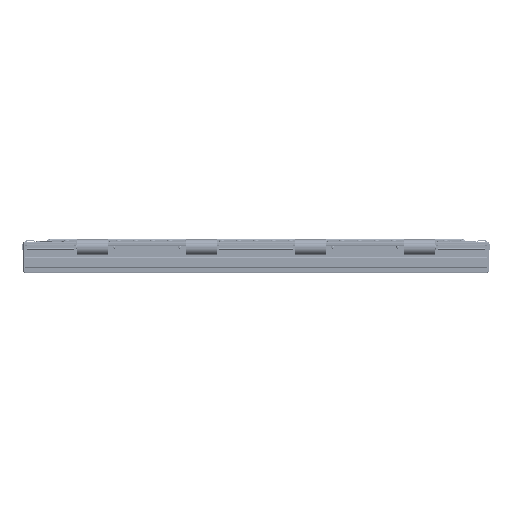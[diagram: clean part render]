
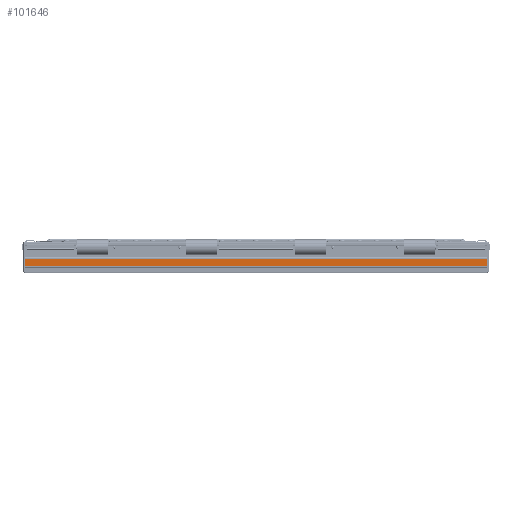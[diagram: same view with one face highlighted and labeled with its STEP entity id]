
A CAD part, left-side view. The second image highlights one B-rep face of the part: STEP entity #101646.
In plain terms, the highlighted planar face has unit normal (-1, 0, 0).
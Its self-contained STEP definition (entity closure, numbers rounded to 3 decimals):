
#5841=LINE('',#154766,#16434);
#5842=LINE('',#154770,#16435);
#5843=LINE('',#154772,#16436);
#5844=LINE('',#154773,#16437);
#16434=VECTOR('',#123166,10.);
#16435=VECTOR('',#123171,10.);
#16436=VECTOR('',#123172,10.);
#16437=VECTOR('',#123173,10.);
#24785=PLANE('',#108732);
#32928=FACE_OUTER_BOUND('',#38366,.T.);
#38366=EDGE_LOOP('',(#77321,#77322,#77323,#77324));
#46897=VERTEX_POINT('',#154763);
#46898=VERTEX_POINT('',#154765);
#46899=VERTEX_POINT('',#154769);
#46900=VERTEX_POINT('',#154771);
#58363=EDGE_CURVE('',#46898,#46897,#5841,.T.);
#58365=EDGE_CURVE('',#46897,#46899,#5842,.T.);
#58366=EDGE_CURVE('',#46900,#46899,#5843,.T.);
#58367=EDGE_CURVE('',#46898,#46900,#5844,.T.);
#77321=ORIENTED_EDGE('',*,*,#58365,.T.);
#77322=ORIENTED_EDGE('',*,*,#58366,.F.);
#77323=ORIENTED_EDGE('',*,*,#58367,.F.);
#77324=ORIENTED_EDGE('',*,*,#58363,.T.);
#101646=ADVANCED_FACE('',(#32928),#24785,.T.);
#108732=AXIS2_PLACEMENT_3D('',#154768,#123169,#123170);
#123166=DIRECTION('',(0.,0.,-1.));
#123169=DIRECTION('center_axis',(-1.,0.,0.));
#123170=DIRECTION('ref_axis',(0.,0.,1.));
#123171=DIRECTION('',(0.,-1.,0.));
#123172=DIRECTION('',(0.,0.,-1.));
#123173=DIRECTION('',(0.,-1.,0.));
#154763=CARTESIAN_POINT('',(-10.,-3.3,-900.));
#154765=CARTESIAN_POINT('',(-10.,-3.3,0.));
#154766=CARTESIAN_POINT('',(-10.,-3.3,0.));
#154768=CARTESIAN_POINT('Origin',(-10.,-3.3,0.));
#154769=CARTESIAN_POINT('',(-10.,-16.7,-900.));
#154770=CARTESIAN_POINT('',(-10.,-3.3,-900.));
#154771=CARTESIAN_POINT('',(-10.,-16.7,0.));
#154772=CARTESIAN_POINT('',(-10.,-16.7,0.));
#154773=CARTESIAN_POINT('',(-10.,-3.3,0.));
